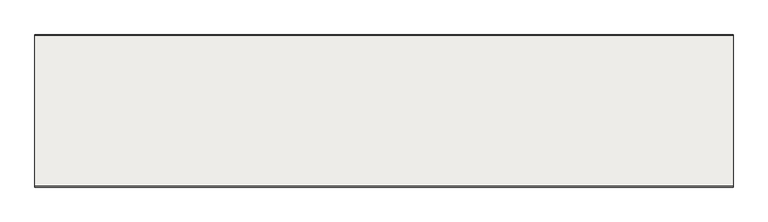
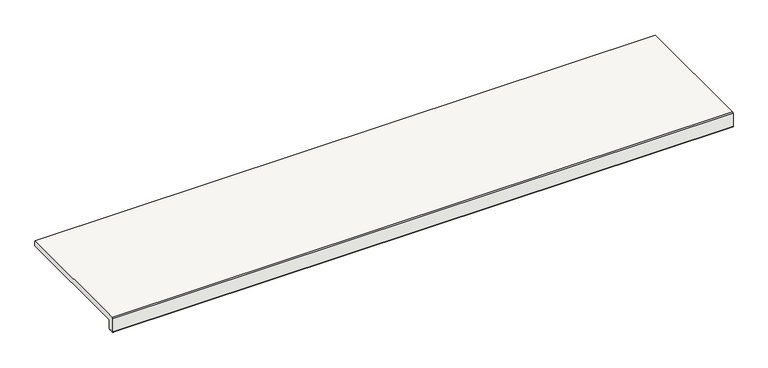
"""IFC4 building model written with IfcOpenShell, lengths in millimetres: slab geometry, ROSA GRES_L62 : Pieza L62_Mistery_Grey_Anti-Slip."""

from ifc_helpers import new_model, si_unit, point, frame, frame_2d, origin, place, context, project, spatial, polyline, circle_curve, trimmed, segment, composite_curve, outline, extrude, source, transform, mapped, element, save


def slab_1ea43698(model_context):
    return source(origin(), model_context, "Body", "SweptSolid", [
        extrude(outline(composite_curve([segment(polyline([(12.1001991, -37.0), (9.4054777, -37.0)]), True, "CONTINUOUS"), segment(trimmed(circle_curve(frame_2d((7.4142134, -37.0)), 1.9912643), [point((9.4054777, -37.0))], [point((5.422949, -37.0))], True, "CARTESIAN"), True, "CONTINUOUS"), segment(polyline([(5.422949, -37.0), (2.5, -37.0)]), True, "CONTINUOUS"), segment(trimmed(circle_curve(frame_2d((2.5, -34.5)), 2.5), [point((2.5, -37.0))], [point((0.0, -34.5))], False, "CARTESIAN"), True, "CONTINUOUS"), segment(polyline([(0.0, -34.5), (0.0, -2.5), (2.5, 0.0), (315.5, 0.0), (317.0, -2.5), (317.0, -12.4648352)]), True, "CONTINUOUS"), segment(trimmed(circle_curve(frame_2d((315.5234432, -12.4648352)), 1.4765568), [point((317.0, -12.4648352))], [point((315.5234432, -13.9413919))], False, "CARTESIAN"), True, "CONTINUOUS"), segment(polyline([(315.5234432, -13.9413919), (16.6422322, -13.9413919)]), True, "CONTINUOUS"), segment(trimmed(circle_curve(frame_2d((16.6422322, -16.5836242)), 2.6422322), [point((16.6422322, -13.9413919))], [point((14.0, -16.5836242))], True, "CARTESIAN"), True, "CONTINUOUS"), segment(polyline([(14.0, -16.5836242), (14.0, -35.1001991)]), True, "CONTINUOUS"), segment(trimmed(circle_curve(frame_2d((12.1001991, -35.1001991)), 1.8998009), [point((14.0, -35.1001991))], [point((12.1001991, -37.0))], False, "CARTESIAN"), True, "CONTINUOUS")], self_intersect=False)), frame((0.0, 0.0, 0.0), z_axis=(1.0, 0.0, 0.0), x_axis=(0.0, 1.0, 0.0)), (0.0, 0.0, 1.0), 1455.0),
    ])


if __name__ == "__main__":
    model = new_model("IFC4")
    model_context = context("Model", 3, world=origin())
    ifc_project = project(units=[si_unit("LENGTHUNIT", "METRE", prefix="MILLI")], contexts=[model_context])
    site = spatial("IfcSite", under=ifc_project)
    building = spatial("IfcBuilding", under=site)
    placement = place(None, origin())
    slab_shape = slab_1ea43698(model_context)
    element("IfcSlab", 1, ObjectType="ROSA GRES_L62 : Pieza L62_Mistery_Grey_Anti-Slip", at=placement, inside=building, context=model_context, shape_type="MappedRepresentation", body=[
        mapped(slab_shape, transform((0.0, 0.0, 0.0), x_axis=(1.0, 0.0, 0.0), y_axis=(0.0, 1.0, 0.0), z_axis=(0.0, 0.0, 1.0))),
    ])
    save(model, "model.ifc")
